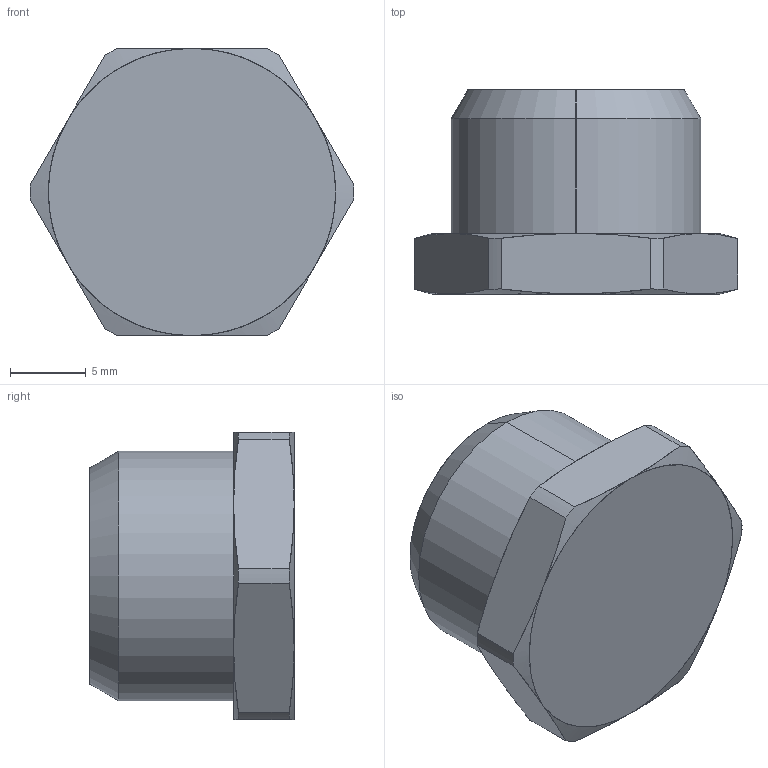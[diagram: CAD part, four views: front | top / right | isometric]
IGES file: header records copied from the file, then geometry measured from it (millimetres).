
Start section: SolidWorks IGES file using analytic representation for surfaces
Global section: file name: K:\Disegni Esecutivi\Accessori\3020\0302000010400.IGS; native system: SolidWorks 2007; preprocessor: SolidWorks 2007; author: cad02; date: 071019.151541; units: millimetre
Bounding box: 21.4 x 13.5 x 19 mm (x, y, z)
Surface area: 1648.1 mm2 (no closed solid volume)
Topology: 0 solids, 0 shells, 37 faces, 436 edges, 434 vertices
Faces by surface type: revolution 28, bspline 9
